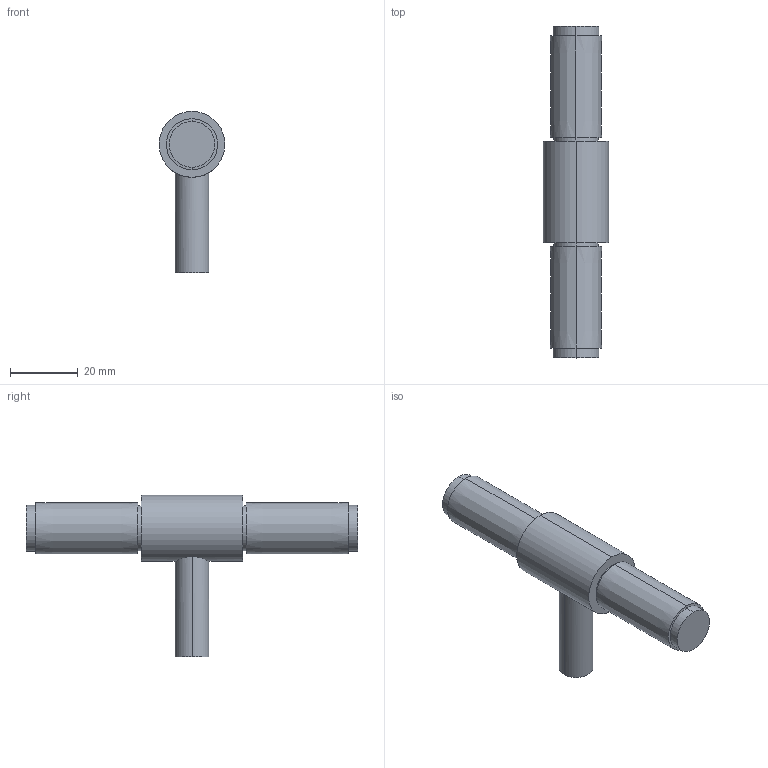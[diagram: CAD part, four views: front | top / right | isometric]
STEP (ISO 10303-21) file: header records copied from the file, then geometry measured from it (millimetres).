
FILE_DESCRIPTION (( 'STEP AP203' ), '1' );
FILE_NAME ('T-Bar.STEP', '2016-10-12T14:57:10', ( '' ), ( '' ), 'SwSTEP 2.0', 'SolidWorks 2014', '' );
FILE_SCHEMA (( 'CONFIG_CONTROL_DESIGN' ));
Length unit declared in the file: millimetre
Products named in the file (1): T-Bar
Bounding box: 19.41 x 97.83 x 47.51 mm (x, y, z)
Volume: 22964 mm3; surface area: 6665.7 mm2
Topology: 1 solids, 1 shells, 27 faces, 55 edges, 34 vertices
Faces by surface type: cylinder 12, cone 8, plane 7
Entity records: 862 total; most frequent: CARTESIAN_POINT 195, DIRECTION 137, ORIENTED_EDGE 110, AXIS2_PLACEMENT_3D 58, EDGE_CURVE 55, VERTEX_POINT 34, EDGE_LOOP 31, CIRCLE 30
